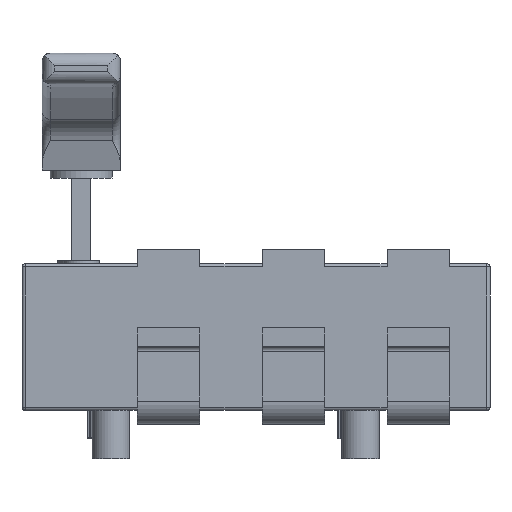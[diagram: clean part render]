
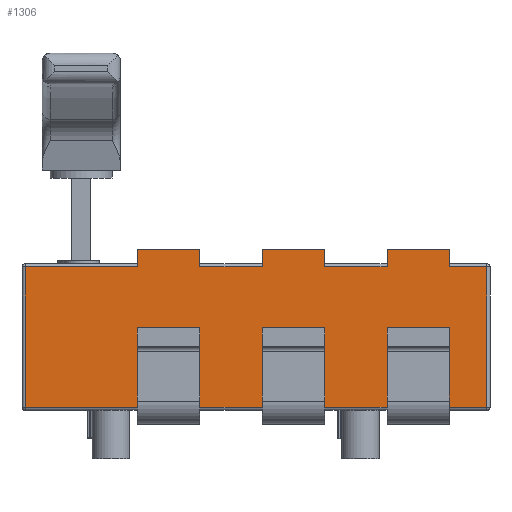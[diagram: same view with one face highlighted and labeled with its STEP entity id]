
A CAD part, front view. The second image highlights one B-rep face of the part: STEP entity #1306.
In plain terms, the highlighted planar face has unit normal (0, -1, 0).
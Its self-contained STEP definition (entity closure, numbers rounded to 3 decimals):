
#433=PLANE('',#8205);
#1306=ADVANCED_FACE('',(#1826),#433,.F.);
#1826=FACE_OUTER_BOUND('',#2350,.T.);
#2350=EDGE_LOOP('',(#5413,#5414,#5415,#5416,#5417,#5418,#5419,#5420,#5421,
#5422,#5423,#5424,#5425,#5426,#5427,#5428,#5429,#5430,#5431,#5432,#5433,
#5434,#5435,#5436,#5437,#5438,#5439,#5440));
#2429=LINE('',#10704,#2951);
#2430=LINE('',#10709,#2952);
#2437=LINE('',#10728,#2959);
#2461=LINE('',#10803,#2983);
#2463=LINE('',#10810,#2985);
#2466=LINE('',#10817,#2988);
#2489=LINE('',#10896,#3011);
#2491=LINE('',#10903,#3013);
#2496=LINE('',#10912,#3018);
#2526=LINE('',#11003,#3048);
#2529=LINE('',#11009,#3051);
#2532=LINE('',#11019,#3054);
#2560=LINE('',#11110,#3082);
#2565=LINE('',#11122,#3087);
#2566=LINE('',#11126,#3088);
#2591=LINE('',#11208,#3113);
#2596=LINE('',#11219,#3118);
#2598=LINE('',#11225,#3120);
#2841=LINE('',#15613,#3363);
#2847=LINE('',#15652,#3369);
#2848=LINE('',#15654,#3370);
#2871=LINE('',#15715,#3393);
#2873=LINE('',#15718,#3395);
#2877=LINE('',#15725,#3399);
#2878=LINE('',#15726,#3400);
#2879=LINE('',#15727,#3401);
#2880=LINE('',#15728,#3402);
#2881=LINE('',#15729,#3403);
#2951=VECTOR('',#8420,1.);
#2952=VECTOR('',#8425,1.);
#2959=VECTOR('',#8440,1.);
#2983=VECTOR('',#8514,1.);
#2985=VECTOR('',#8520,1.);
#2988=VECTOR('',#8527,1.);
#3011=VECTOR('',#8600,1.);
#3013=VECTOR('',#8606,1.);
#3018=VECTOR('',#8615,1.);
#3048=VECTOR('',#8705,1.);
#3051=VECTOR('',#8710,1.);
#3054=VECTOR('',#8719,1.);
#3082=VECTOR('',#8805,1.);
#3087=VECTOR('',#8814,1.);
#3088=VECTOR('',#8819,1.);
#3113=VECTOR('',#8898,1.);
#3118=VECTOR('',#8907,1.);
#3120=VECTOR('',#8913,1.);
#3363=VECTOR('',#10106,1.);
#3369=VECTOR('',#10154,1.);
#3370=VECTOR('',#10157,1.);
#3393=VECTOR('',#10256,1.);
#3395=VECTOR('',#10260,1.);
#3399=VECTOR('',#10270,1.);
#3400=VECTOR('',#10271,1.);
#3401=VECTOR('',#10272,1.);
#3402=VECTOR('',#10273,1.);
#3403=VECTOR('',#10274,1.);
#5413=ORIENTED_EDGE('',*,*,#7279,.T.);
#5414=ORIENTED_EDGE('',*,*,#6351,.T.);
#5415=ORIENTED_EDGE('',*,*,#6339,.F.);
#5416=ORIENTED_EDGE('',*,*,#6341,.F.);
#5417=ORIENTED_EDGE('',*,*,#7280,.T.);
#5418=ORIENTED_EDGE('',*,*,#6394,.T.);
#5419=ORIENTED_EDGE('',*,*,#6387,.T.);
#5420=ORIENTED_EDGE('',*,*,#6390,.F.);
#5421=ORIENTED_EDGE('',*,*,#7281,.T.);
#5422=ORIENTED_EDGE('',*,*,#6440,.T.);
#5423=ORIENTED_EDGE('',*,*,#6431,.T.);
#5424=ORIENTED_EDGE('',*,*,#6434,.F.);
#5425=ORIENTED_EDGE('',*,*,#7230,.T.);
#5426=ORIENTED_EDGE('',*,*,#7249,.T.);
#5427=ORIENTED_EDGE('',*,*,#7275,.T.);
#5428=ORIENTED_EDGE('',*,*,#6589,.F.);
#5429=ORIENTED_EDGE('',*,*,#6592,.F.);
#5430=ORIENTED_EDGE('',*,*,#6583,.F.);
#5431=ORIENTED_EDGE('',*,*,#7282,.T.);
#5432=ORIENTED_EDGE('',*,*,#6542,.T.);
#5433=ORIENTED_EDGE('',*,*,#6544,.T.);
#5434=ORIENTED_EDGE('',*,*,#6536,.T.);
#5435=ORIENTED_EDGE('',*,*,#7283,.T.);
#5436=ORIENTED_EDGE('',*,*,#6492,.T.);
#5437=ORIENTED_EDGE('',*,*,#6484,.T.);
#5438=ORIENTED_EDGE('',*,*,#6487,.T.);
#5439=ORIENTED_EDGE('',*,*,#7273,.T.);
#5440=ORIENTED_EDGE('',*,*,#7250,.T.);
#5613=VERTEX_POINT('',#10701);
#5614=VERTEX_POINT('',#10703);
#5615=VERTEX_POINT('',#10707);
#5621=VERTEX_POINT('',#10720);
#5649=VERTEX_POINT('',#10800);
#5650=VERTEX_POINT('',#10802);
#5653=VERTEX_POINT('',#10809);
#5656=VERTEX_POINT('',#10818);
#5685=VERTEX_POINT('',#10893);
#5686=VERTEX_POINT('',#10895);
#5689=VERTEX_POINT('',#10902);
#5692=VERTEX_POINT('',#10913);
#5723=VERTEX_POINT('',#11004);
#5724=VERTEX_POINT('',#11005);
#5725=VERTEX_POINT('',#11010);
#5729=VERTEX_POINT('',#11020);
#5762=VERTEX_POINT('',#11109);
#5763=VERTEX_POINT('',#11111);
#5767=VERTEX_POINT('',#11121);
#5768=VERTEX_POINT('',#11123);
#5798=VERTEX_POINT('',#11207);
#5799=VERTEX_POINT('',#11209);
#5802=VERTEX_POINT('',#11218);
#5803=VERTEX_POINT('',#11220);
#6223=VERTEX_POINT('',#15601);
#6226=VERTEX_POINT('',#15612);
#6228=VERTEX_POINT('',#15619);
#6235=VERTEX_POINT('',#15638);
#6339=EDGE_CURVE('',#5614,#5613,#2429,.T.);
#6341=EDGE_CURVE('',#5615,#5614,#2430,.T.);
#6351=EDGE_CURVE('',#5621,#5613,#2437,.T.);
#6387=EDGE_CURVE('',#5649,#5650,#2461,.T.);
#6390=EDGE_CURVE('',#5653,#5650,#2463,.T.);
#6394=EDGE_CURVE('',#5656,#5649,#2466,.T.);
#6431=EDGE_CURVE('',#5685,#5686,#2489,.T.);
#6434=EDGE_CURVE('',#5689,#5686,#2491,.T.);
#6440=EDGE_CURVE('',#5692,#5685,#2496,.T.);
#6484=EDGE_CURVE('',#5723,#5724,#2526,.T.);
#6487=EDGE_CURVE('',#5724,#5725,#2529,.T.);
#6492=EDGE_CURVE('',#5729,#5723,#2532,.T.);
#6536=EDGE_CURVE('',#5763,#5762,#2560,.T.);
#6542=EDGE_CURVE('',#5768,#5767,#2565,.T.);
#6544=EDGE_CURVE('',#5767,#5763,#2566,.T.);
#6583=EDGE_CURVE('',#5798,#5799,#2591,.T.);
#6589=EDGE_CURVE('',#5802,#5803,#2596,.T.);
#6592=EDGE_CURVE('',#5799,#5802,#2598,.T.);
#7230=EDGE_CURVE('',#5689,#6226,#2841,.T.);
#7249=EDGE_CURVE('',#6226,#6228,#2847,.T.);
#7250=EDGE_CURVE('',#6235,#6223,#2848,.T.);
#7273=EDGE_CURVE('',#5725,#6235,#2871,.T.);
#7275=EDGE_CURVE('',#6228,#5803,#2873,.T.);
#7279=EDGE_CURVE('',#6223,#5621,#2877,.T.);
#7280=EDGE_CURVE('',#5615,#5656,#2878,.T.);
#7281=EDGE_CURVE('',#5653,#5692,#2879,.T.);
#7282=EDGE_CURVE('',#5798,#5768,#2880,.T.);
#7283=EDGE_CURVE('',#5762,#5729,#2881,.T.);
#8205=AXIS2_PLACEMENT_3D('',#15730,#10275,#10276);
#8420=DIRECTION('',(1.,0.,0.));
#8425=DIRECTION('',(0.,0.,1.));
#8440=DIRECTION('',(0.,0.,1.));
#8514=DIRECTION('',(-1.,0.,0.));
#8520=DIRECTION('',(0.,0.,1.));
#8527=DIRECTION('',(0.,0.,1.));
#8600=DIRECTION('',(-1.,0.,0.));
#8606=DIRECTION('',(0.,0.,1.));
#8615=DIRECTION('',(0.,0.,1.));
#8705=DIRECTION('',(1.,0.,0.));
#8710=DIRECTION('',(0.,0.,-1.));
#8719=DIRECTION('',(0.,0.,1.));
#8805=DIRECTION('',(0.,0.,-1.));
#8814=DIRECTION('',(0.,0.,1.));
#8819=DIRECTION('',(1.,0.,0.));
#8898=DIRECTION('',(0.,0.,1.));
#8907=DIRECTION('',(0.,0.,-1.));
#8913=DIRECTION('',(-1.,0.,0.));
#10106=DIRECTION('',(-1.,0.,0.));
#10154=DIRECTION('',(0.,0.,-1.));
#10157=DIRECTION('',(0.,0.,1.));
#10256=DIRECTION('',(1.,0.,0.));
#10260=DIRECTION('',(1.,0.,0.));
#10270=DIRECTION('',(-1.,0.,0.));
#10271=DIRECTION('',(-1.,0.,0.));
#10272=DIRECTION('',(-1.,0.,0.));
#10273=DIRECTION('',(1.,0.,0.));
#10274=DIRECTION('',(1.,0.,0.));
#10275=DIRECTION('',(0.,1.,0.));
#10276=DIRECTION('',(0.,0.,1.));
#10701=CARTESIAN_POINT('',(124.,-75.,103.));
#10703=CARTESIAN_POINT('',(84.,-75.,103.));
#10704=CARTESIAN_POINT('',(124.,-75.,103.));
#10707=CARTESIAN_POINT('',(84.,-75.,92.));
#10709=CARTESIAN_POINT('',(84.,-75.,103.));
#10720=CARTESIAN_POINT('',(124.,-75.,92.));
#10728=CARTESIAN_POINT('',(124.,-75.,103.));
#10800=CARTESIAN_POINT('',(44.,-75.,103.));
#10802=CARTESIAN_POINT('',(4.,-75.,103.));
#10803=CARTESIAN_POINT('',(4.,-75.,103.));
#10809=CARTESIAN_POINT('',(4.,-75.,92.));
#10810=CARTESIAN_POINT('',(4.,-75.,103.));
#10817=CARTESIAN_POINT('',(44.,-75.,103.));
#10818=CARTESIAN_POINT('',(44.,-75.,92.));
#10893=CARTESIAN_POINT('',(-36.,-75.,103.));
#10895=CARTESIAN_POINT('',(-76.,-75.,103.));
#10896=CARTESIAN_POINT('',(-76.,-75.,103.));
#10902=CARTESIAN_POINT('',(-76.,-75.,92.));
#10903=CARTESIAN_POINT('',(-76.,-75.,103.));
#10912=CARTESIAN_POINT('',(-36.,-75.,103.));
#10913=CARTESIAN_POINT('',(-36.,-75.,92.));
#11003=CARTESIAN_POINT('',(-150.,-75.,3.));
#11004=CARTESIAN_POINT('',(84.,-75.,3.));
#11005=CARTESIAN_POINT('',(124.,-75.,3.));
#11009=CARTESIAN_POINT('',(124.,-75.,94.));
#11010=CARTESIAN_POINT('',(124.,-75.,2.));
#11019=CARTESIAN_POINT('',(84.,-75.,94.));
#11020=CARTESIAN_POINT('',(84.,-75.,2.));
#11109=CARTESIAN_POINT('',(44.,-75.,2.));
#11110=CARTESIAN_POINT('',(44.,-75.,94.));
#11111=CARTESIAN_POINT('',(44.,-75.,3.));
#11121=CARTESIAN_POINT('',(4.,-75.,3.));
#11122=CARTESIAN_POINT('',(4.,-75.,94.));
#11123=CARTESIAN_POINT('',(4.,-75.,2.));
#11126=CARTESIAN_POINT('',(-150.,-75.,3.));
#11207=CARTESIAN_POINT('',(-36.,-75.,2.));
#11208=CARTESIAN_POINT('',(-36.,-75.,94.));
#11209=CARTESIAN_POINT('',(-36.,-75.,3.));
#11218=CARTESIAN_POINT('',(-76.,-75.,3.));
#11219=CARTESIAN_POINT('',(-76.,-75.,94.));
#11220=CARTESIAN_POINT('',(-76.,-75.,2.));
#11225=CARTESIAN_POINT('',(-150.,-75.,3.));
#15601=CARTESIAN_POINT('',(148.,-75.,92.));
#15612=CARTESIAN_POINT('',(-148.,-75.,92.));
#15613=CARTESIAN_POINT('',(-148.,-75.,92.));
#15619=CARTESIAN_POINT('',(-148.,-75.,2.));
#15638=CARTESIAN_POINT('',(148.,-75.,2.));
#15652=CARTESIAN_POINT('',(-148.,-75.,94.));
#15654=CARTESIAN_POINT('',(148.,-75.,94.));
#15715=CARTESIAN_POINT('',(-150.,-75.,2.));
#15718=CARTESIAN_POINT('',(-150.,-75.,2.));
#15725=CARTESIAN_POINT('',(-148.,-75.,92.));
#15726=CARTESIAN_POINT('',(-148.,-75.,92.));
#15727=CARTESIAN_POINT('',(-148.,-75.,92.));
#15728=CARTESIAN_POINT('',(-150.,-75.,2.));
#15729=CARTESIAN_POINT('',(-150.,-75.,2.));
#15730=CARTESIAN_POINT('',(-150.,-75.,94.));
